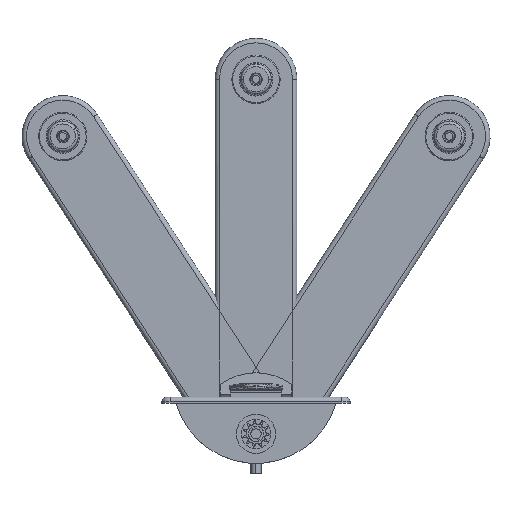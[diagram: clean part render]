
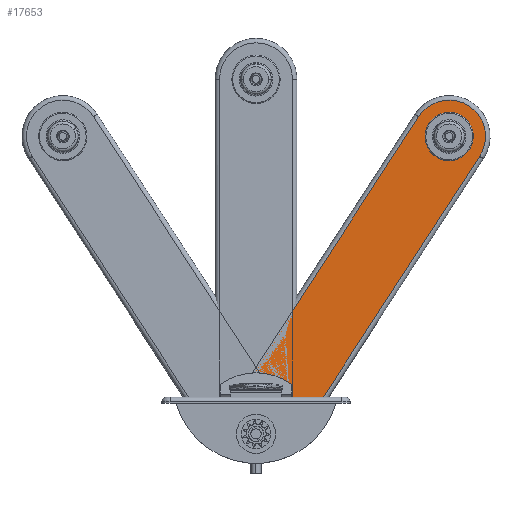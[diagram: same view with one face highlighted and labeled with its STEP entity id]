
A CAD part, top view. The second image highlights one B-rep face of the part: STEP entity #17653.
In plain terms, the highlighted planar face has unit normal (0, 0, 1).
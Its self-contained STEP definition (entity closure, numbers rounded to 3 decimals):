
#144 = CARTESIAN_POINT ( 'NONE',  ( 0., 817.15, 31.5 ) ) ;
#164 = DIRECTION ( 'NONE',  ( 1., 0., 0. ) ) ;
#184 = PLANE ( 'NONE',  #15718 ) ;
#787 = VERTEX_POINT ( 'NONE', #10827 ) ;
#796 = ORIENTED_EDGE ( 'NONE', *, *, #9320, .F. ) ;
#882 = EDGE_CURVE ( 'NONE', #5854, #15170, #2935, .T. ) ;
#960 = AXIS2_PLACEMENT_3D ( 'NONE', #17398, #7955, #19020 ) ;
#992 = AXIS2_PLACEMENT_3D ( 'NONE', #7603, #18664, #9186 ) ;
#1315 = DIRECTION ( 'NONE',  ( 0., 0., 1. ) ) ;
#1366 = VERTEX_POINT ( 'NONE', #9510 ) ;
#1446 = ORIENTED_EDGE ( 'NONE', *, *, #2921, .T. ) ;
#1449 = EDGE_CURVE ( 'NONE', #11361, #17411, #3929, .T. ) ;
#1715 = CIRCLE ( 'NONE', #4607, 100. ) ;
#1762 = DIRECTION ( 'NONE',  ( 1., 0., 0. ) ) ;
#2229 = FACE_BOUND ( 'NONE', #15799, .T. ) ;
#2369 = EDGE_CURVE ( 'NONE', #14015, #787, #10057, .T. ) ;
#2501 = AXIS2_PLACEMENT_3D ( 'NONE', #14035, #4586, #15615 ) ;
#2760 = VECTOR ( 'NONE', #16068, 1000. ) ;
#2898 = CIRCLE ( 'NONE', #12034, 34. ) ;
#2921 = EDGE_CURVE ( 'NONE', #16047, #9097, #1715, .T. ) ;
#2931 = EDGE_LOOP ( 'NONE', ( #8710, #19761 ) ) ;
#2935 = CIRCLE ( 'NONE', #960, 34. ) ;
#3080 = ORIENTED_EDGE ( 'NONE', *, *, #10347, .T. ) ;
#3104 = EDGE_CURVE ( 'NONE', #4485, #1366, #11358, .T. ) ;
#3652 = AXIS2_PLACEMENT_3D ( 'NONE', #7672, #18738, #9249 ) ;
#3685 = VERTEX_POINT ( 'NONE', #4542 ) ;
#3718 = CARTESIAN_POINT ( 'NONE',  ( -73.526, 63.371, 31.5 ) ) ;
#3739 = LINE ( 'NONE', #4413, #15829 ) ;
#3929 = CIRCLE ( 'NONE', #12242, 59. ) ;
#3978 = FACE_BOUND ( 'NONE', #2931, .T. ) ;
#4046 = ORIENTED_EDGE ( 'NONE', *, *, #4209, .F. ) ;
#4154 = CARTESIAN_POINT ( 'NONE',  ( 0., 0., 31.5 ) ) ;
#4209 = EDGE_CURVE ( 'NONE', #1366, #4485, #12829, .T. ) ;
#4353 = EDGE_CURVE ( 'NONE', #15170, #5854, #2898, .T. ) ;
#4413 = CARTESIAN_POINT ( 'NONE',  ( -89., 0., 31.5 ) ) ;
#4485 = VERTEX_POINT ( 'NONE', #11444 ) ;
#4500 = CARTESIAN_POINT ( 'NONE',  ( 89., 817.15, 31.5 ) ) ;
#4511 = EDGE_CURVE ( 'NONE', #8816, #8594, #18244, .T. ) ;
#4542 = CARTESIAN_POINT ( 'NONE',  ( -89., 817.15, 31.5 ) ) ;
#4586 = DIRECTION ( 'NONE',  ( 0., 0., 1. ) ) ;
#4607 = AXIS2_PLACEMENT_3D ( 'NONE', #4154, #15172, #5738 ) ;
#5049 = CARTESIAN_POINT ( 'NONE',  ( 89., 817.15, 31.5 ) ) ;
#5055 = EDGE_CURVE ( 'NONE', #787, #14015, #14010, .T. ) ;
#5058 = EDGE_LOOP ( 'NONE', ( #5098, #18105 ) ) ;
#5098 = ORIENTED_EDGE ( 'NONE', *, *, #4353, .F. ) ;
#5309 = DIRECTION ( 'NONE',  ( 1., 0., 0. ) ) ;
#5738 = DIRECTION ( 'NONE',  ( 1., 0., 0. ) ) ;
#5854 = VERTEX_POINT ( 'NONE', #17654 ) ;
#6258 = VERTEX_POINT ( 'NONE', #4500 ) ;
#6481 = ORIENTED_EDGE ( 'NONE', *, *, #11446, .T. ) ;
#6584 = DIRECTION ( 'NONE',  ( 1., 0., 0. ) ) ;
#7413 = CARTESIAN_POINT ( 'NONE',  ( 59., 817.15, 31.5 ) ) ;
#7603 = CARTESIAN_POINT ( 'NONE',  ( 73.526, 63.371, 31.5 ) ) ;
#7672 = CARTESIAN_POINT ( 'NONE',  ( 0., 817.15, 31.5 ) ) ;
#7955 = DIRECTION ( 'NONE',  ( 0., 0., 1. ) ) ;
#8049 = EDGE_LOOP ( 'NONE', ( #17347, #796 ) ) ;
#8186 = FACE_BOUND ( 'NONE', #5058, .T. ) ;
#8563 = AXIS2_PLACEMENT_3D ( 'NONE', #8716, #19801, #10296 ) ;
#8594 = VERTEX_POINT ( 'NONE', #8663 ) ;
#8663 = CARTESIAN_POINT ( 'NONE',  ( -83.526, 63.371, 31.5 ) ) ;
#8710 = ORIENTED_EDGE ( 'NONE', *, *, #9170, .F. ) ;
#8716 = CARTESIAN_POINT ( 'NONE',  ( 0., 85.15, 31.5 ) ) ;
#8723 = DIRECTION ( 'NONE',  ( 0., 0., 1. ) ) ;
#8816 = VERTEX_POINT ( 'NONE', #18830 ) ;
#8851 = ORIENTED_EDGE ( 'NONE', *, *, #5055, .F. ) ;
#8916 = DIRECTION ( 'NONE',  ( 0., 0., 1. ) ) ;
#9097 = VERTEX_POINT ( 'NONE', #10220 ) ;
#9170 = EDGE_CURVE ( 'NONE', #17411, #11361, #20142, .T. ) ;
#9186 = DIRECTION ( 'NONE',  ( 1., 0., 0. ) ) ;
#9249 = DIRECTION ( 'NONE',  ( 1., 0., 0. ) ) ;
#9300 = ORIENTED_EDGE ( 'NONE', *, *, #2369, .F. ) ;
#9320 = EDGE_CURVE ( 'NONE', #8594, #8816, #16145, .T. ) ;
#9510 = CARTESIAN_POINT ( 'NONE',  ( 83.526, 63.371, 31.5 ) ) ;
#9670 = DIRECTION ( 'NONE',  ( 0., 0., 1. ) ) ;
#9715 = CIRCLE ( 'NONE', #16615, 89. ) ;
#9838 = EDGE_CURVE ( 'NONE', #6258, #3685, #9715, .T. ) ;
#10057 = CIRCLE ( 'NONE', #8563, 10. ) ;
#10150 = ORIENTED_EDGE ( 'NONE', *, *, #9838, .T. ) ;
#10220 = CARTESIAN_POINT ( 'NONE',  ( 89., -45.596, 31.5 ) ) ;
#10296 = DIRECTION ( 'NONE',  ( 1., 0., 0. ) ) ;
#10347 = EDGE_CURVE ( 'NONE', #9097, #6258, #15875, .T. ) ;
#10561 = EDGE_LOOP ( 'NONE', ( #1446, #3080, #10150, #6481 ) ) ;
#10803 = CARTESIAN_POINT ( 'NONE',  ( 0., -49.85, 31.5 ) ) ;
#10827 = CARTESIAN_POINT ( 'NONE',  ( 10., 85.15, 31.5 ) ) ;
#11230 = DIRECTION ( 'NONE',  ( 0., 0., 1. ) ) ;
#11358 = CIRCLE ( 'NONE', #992, 10. ) ;
#11361 = VERTEX_POINT ( 'NONE', #14834 ) ;
#11444 = CARTESIAN_POINT ( 'NONE',  ( 63.526, 63.371, 31.5 ) ) ;
#11446 = EDGE_CURVE ( 'NONE', #3685, #16047, #3739, .T. ) ;
#11719 = CARTESIAN_POINT ( 'NONE',  ( -10., 85.15, 31.5 ) ) ;
#12034 = AXIS2_PLACEMENT_3D ( 'NONE', #10803, #1315, #12404 ) ;
#12224 = EDGE_LOOP ( 'NONE', ( #8851, #9300 ) ) ;
#12242 = AXIS2_PLACEMENT_3D ( 'NONE', #144, #11230, #1762 ) ;
#12368 = FACE_OUTER_BOUND ( 'NONE', #10561, .T. ) ;
#12404 = DIRECTION ( 'NONE',  ( 1., 0., 0. ) ) ;
#12829 = CIRCLE ( 'NONE', #2501, 10. ) ;
#12879 = CARTESIAN_POINT ( 'NONE',  ( 0., 817.15, 31.5 ) ) ;
#12895 = FACE_BOUND ( 'NONE', #12224, .T. ) ;
#13251 = CARTESIAN_POINT ( 'NONE',  ( 34., -49.85, 31.5 ) ) ;
#14010 = CIRCLE ( 'NONE', #14446, 10. ) ;
#14015 = VERTEX_POINT ( 'NONE', #11719 ) ;
#14035 = CARTESIAN_POINT ( 'NONE',  ( 73.526, 63.371, 31.5 ) ) ;
#14446 = AXIS2_PLACEMENT_3D ( 'NONE', #18391, #8916, #19993 ) ;
#14746 = DIRECTION ( 'NONE',  ( 0., 0., 1. ) ) ;
#14834 = CARTESIAN_POINT ( 'NONE',  ( -59., 817.15, 31.5 ) ) ;
#15170 = VERTEX_POINT ( 'NONE', #13251 ) ;
#15172 = DIRECTION ( 'NONE',  ( 0., 0., 1. ) ) ;
#15201 = AXIS2_PLACEMENT_3D ( 'NONE', #3718, #14746, #5309 ) ;
#15442 = DIRECTION ( 'NONE',  ( 0., -1., 0. ) ) ;
#15615 = DIRECTION ( 'NONE',  ( 1., 0., 0. ) ) ;
#15718 = AXIS2_PLACEMENT_3D ( 'NONE', #12879, #16030, #6584 ) ;
#15799 = EDGE_LOOP ( 'NONE', ( #4046, #17992 ) ) ;
#15829 = VECTOR ( 'NONE', #15442, 1000. ) ;
#15875 = LINE ( 'NONE', #5049, #2760 ) ;
#16030 = DIRECTION ( 'NONE',  ( 0., 0., 1. ) ) ;
#16047 = VERTEX_POINT ( 'NONE', #19524 ) ;
#16068 = DIRECTION ( 'NONE',  ( 0., 1., 0. ) ) ;
#16145 = CIRCLE ( 'NONE', #17404, 10. ) ;
#16578 = FACE_BOUND ( 'NONE', #8049, .T. ) ;
#16615 = AXIS2_PLACEMENT_3D ( 'NONE', #18201, #8723, #19806 ) ;
#17347 = ORIENTED_EDGE ( 'NONE', *, *, #4511, .F. ) ;
#17398 = CARTESIAN_POINT ( 'NONE',  ( 0., -49.85, 31.5 ) ) ;
#17404 = AXIS2_PLACEMENT_3D ( 'NONE', #19164, #9670, #164 ) ;
#17411 = VERTEX_POINT ( 'NONE', #7413 ) ;
#17653 = ADVANCED_FACE ( 'NONE', ( #2229, #12895, #16578, #12368, #8186, #3978 ), #184, .T. ) ;
#17654 = CARTESIAN_POINT ( 'NONE',  ( -34., -49.85, 31.5 ) ) ;
#17992 = ORIENTED_EDGE ( 'NONE', *, *, #3104, .F. ) ;
#18105 = ORIENTED_EDGE ( 'NONE', *, *, #882, .F. ) ;
#18201 = CARTESIAN_POINT ( 'NONE',  ( 0., 817.15, 31.5 ) ) ;
#18244 = CIRCLE ( 'NONE', #15201, 10. ) ;
#18391 = CARTESIAN_POINT ( 'NONE',  ( 0., 85.15, 31.5 ) ) ;
#18664 = DIRECTION ( 'NONE',  ( 0., 0., 1. ) ) ;
#18738 = DIRECTION ( 'NONE',  ( 0., 0., 1. ) ) ;
#18830 = CARTESIAN_POINT ( 'NONE',  ( -63.526, 63.371, 31.5 ) ) ;
#19020 = DIRECTION ( 'NONE',  ( 1., 0., 0. ) ) ;
#19164 = CARTESIAN_POINT ( 'NONE',  ( -73.526, 63.371, 31.5 ) ) ;
#19524 = CARTESIAN_POINT ( 'NONE',  ( -89., -45.596, 31.5 ) ) ;
#19761 = ORIENTED_EDGE ( 'NONE', *, *, #1449, .F. ) ;
#19801 = DIRECTION ( 'NONE',  ( 0., 0., 1. ) ) ;
#19806 = DIRECTION ( 'NONE',  ( 1., 0., 0. ) ) ;
#19993 = DIRECTION ( 'NONE',  ( 1., 0., 0. ) ) ;
#20142 = CIRCLE ( 'NONE', #3652, 59. ) ;
